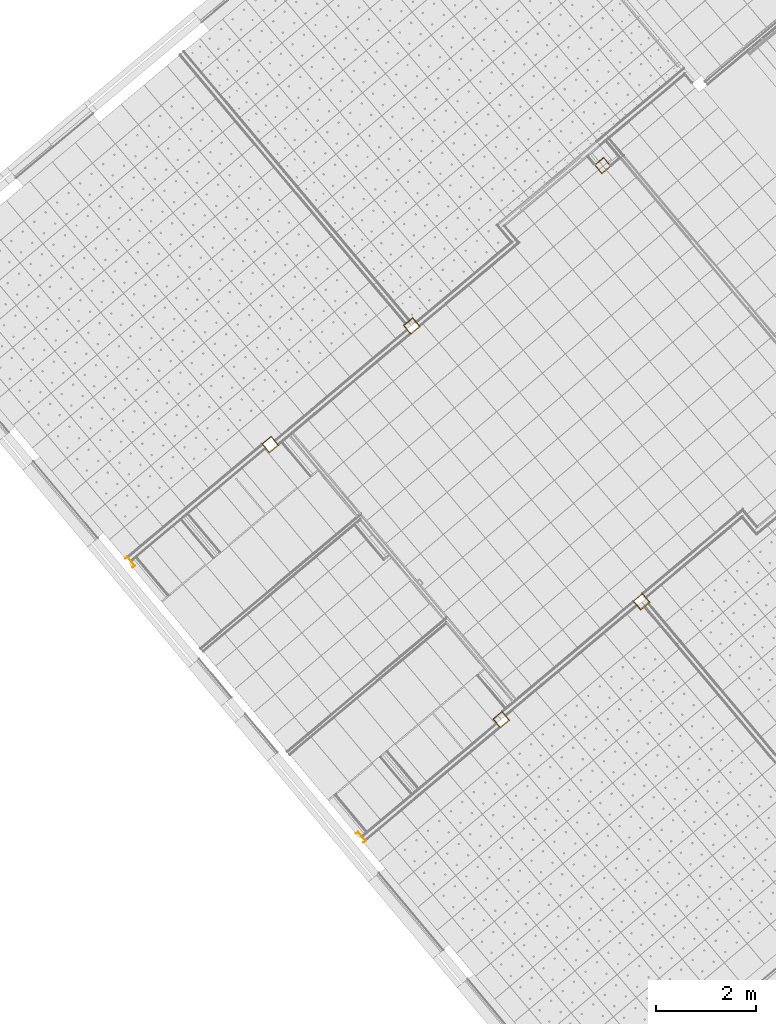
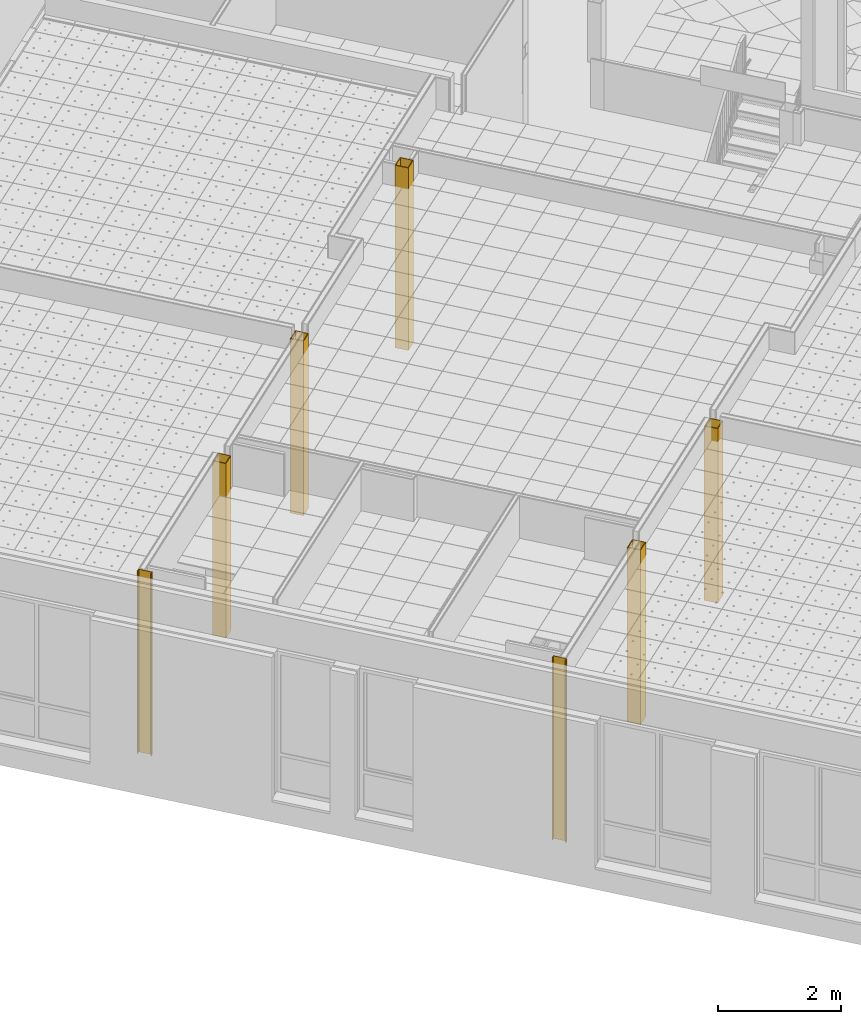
# One storey, part 116 of 338: 7 coverings.
"""IFC2X3 building model written with IfcOpenShell, lengths in millimetres."""

from ifc_helpers import new_model, entity, si_unit, converted_unit, derived_unit, money_unit, direction, frame, origin_with_axes, place, context, subcontext, project, spatial, faceted_brep, material, type_object, element, save


model = new_model("IFC2X3")

# Units and contexts
model_context = context("Model", 3, precision=0.01, world=origin_with_axes(), true_north=direction((0.0, 1.0)))
plan_context = context("Plan", 3, precision=0.01, world=origin_with_axes(), true_north=direction((0.0, 1.0)))
body_context = subcontext(model_context, "Body", "Model", "MODEL_VIEW")
ifc_project = project(units=[si_unit("LENGTHUNIT", "METRE", prefix="MILLI"), si_unit("AREAUNIT", "SQUARE_METRE"), si_unit("VOLUMEUNIT", "CUBIC_METRE"), converted_unit("PLANEANGLEUNIT", "DEGREE", entity("IfcPlaneAngleMeasure", 0.0174532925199), si_unit("PLANEANGLEUNIT", "RADIAN"), dimensions=[0, 0, 0, 0, 0, 0, 0]), money_unit("EUR"), converted_unit("TIMEUNIT", "Year", entity("IfcTimeMeasure", 31556926.0), si_unit("TIMEUNIT", "SECOND"), dimensions=[0, 0, 1, 0, 0, 0, 0]), si_unit("MASSUNIT", "GRAM", prefix="KILO"), si_unit("THERMODYNAMICTEMPERATUREUNIT", "DEGREE_CELSIUS"), si_unit("LUMINOUSINTENSITYUNIT", "LUMEN"), si_unit("ENERGYUNIT", "JOULE", prefix="MEGA"), derived_unit("THERMALCONDUCTANCEUNIT", [(si_unit("POWERUNIT", "WATT"), 1), (si_unit("LENGTHUNIT", "METRE"), -1), (si_unit("THERMODYNAMICTEMPERATUREUNIT", "KELVIN"), -1)]), derived_unit("SPECIFICHEATCAPACITYUNIT", [(si_unit("ENERGYUNIT", "JOULE"), 1), (si_unit("MASSUNIT", "GRAM", prefix="KILO"), -1), (si_unit("THERMODYNAMICTEMPERATUREUNIT", "KELVIN"), -1)]), derived_unit("MASSDENSITYUNIT", [(si_unit("MASSUNIT", "GRAM", prefix="KILO"), 1), (si_unit("VOLUMEUNIT", "CUBIC_METRE"), -1)])], contexts=[model_context, plan_context])

# Site, building, storey
site_placement = place(None, origin_with_axes())
site = spatial("IfcSite", under=ifc_project, at=site_placement, Name="Fortuinstraat Woensdrecht", CompositionType="ELEMENT")
building_placement = place(site_placement, origin_with_axes())
building = spatial("IfcBuilding", under=site, at=building_placement, Name="IKC Fortuna", CompositionType="ELEMENT")
storey_placement = place(building_placement, origin_with_axes())
storey = spatial("IfcBuildingStorey", under=building, at=storey_placement, Name="00 begane grond", CompositionType="ELEMENT", Elevation=0.0)

# Coverings
ifc_material = material(Name="Brandwering")
covering_type = type_object("IfcCoveringType", Name="42 Omtimmering kolom 235 x 245", PredefinedType="CLADDING")
covering_1_placement = place(storey_placement, frame((14347.9592707, 2426.34805355, 1450.0), z_axis=(0.0, 0.0, 1.0), x_axis=(0.642787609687, -0.766044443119, 0.0)))
element("IfcCovering", 1, at=covering_1_placement, inside=storey, type_object=covering_type, material=ifc_material, Name="42_Wandafwerking_omtimmering kolom", PredefinedType="CLADDING", context=body_context, shape_type="Brep", body=[
    faceted_brep([(-117.5, 122.5, 3635.0), (-117.5, 122.5, 0.0), (-117.5, -122.5, 0.0), (-117.5, -122.5, 3635.0), (117.5, 122.5, 3635.0), (117.5, 122.5, 0.0), (117.5, -122.5, 0.0), (105.0, -110.0, 0.0), (105.0, 110.0, 0.0), (-105.0, 110.0, 0.0), (-105.0, -110.0, 0.0), (117.5, -122.5, 3635.0), (-105.0, 110.0, 3635.0), (105.0, 110.0, 3635.0), (105.0, -110.0, 3635.0), (-105.0, -110.0, 3635.0)], [[[0, 1, 2, 3]], [[4, 5, 1, 0]], [[2, 1, 5, 6], [7, 8, 9, 10]], [[3, 2, 6, 11]], [[4, 0, 3, 11], [12, 13, 14, 15]], [[11, 6, 5, 4]], [[13, 8, 7, 14]], [[12, 9, 8, 13]], [[15, 10, 9, 12]], [[14, 7, 10, 15]]]),
])
covering_2_placement = place(storey_placement, frame((10517.2428272, -788.246295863, 1450.0), z_axis=(0.0, 0.0, 1.0), x_axis=(0.642787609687, -0.766044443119, 0.0)))
element("IfcCovering", 2, at=covering_2_placement, inside=storey, type_object=covering_type, material=ifc_material, Name="42_Wandafwerking_omtimmering kolom", PredefinedType="CLADDING", context=body_context, shape_type="Brep", body=[
    faceted_brep([(-117.5, 122.5, 3475.0), (-117.5, 122.5, 0.0), (-117.5, -122.5, 0.0), (-117.5, -122.5, 3475.0), (117.5, 122.5, 3475.0), (117.5, 122.5, 0.0), (117.5, -122.5, 0.0), (105.0, -110.0, 0.0), (105.0, 110.0, 0.0), (-105.0, 110.0, 0.0), (-105.0, -110.0, 0.0), (117.5, -122.5, 3475.0), (-105.0, 110.0, 3475.0), (105.0, 110.0, 3475.0), (105.0, -110.0, 3475.0), (-105.0, -110.0, 3475.0)], [[[0, 1, 2, 3]], [[4, 5, 1, 0]], [[2, 1, 5, 6], [7, 8, 9, 10]], [[3, 2, 6, 11]], [[4, 0, 3, 11], [12, 13, 14, 15]], [[11, 6, 5, 4]], [[13, 8, 7, 14]], [[12, 9, 8, 13]], [[15, 10, 9, 12]], [[14, 7, 10, 15]]]),
])
for number, where, z_axis, x_axis, name in (
    (3, (7682.1069863, -3167.2027006, 1450.0), (0.0, 0.0, 1.0), (0.642787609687, -0.766044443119, 0.0), "42_Wandafwerking_omtimmering kolom"),
    (4, (12310.8298535, -8681.93897229, 1450.0), (0.0, 0.0, 1.0), (0.642787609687, -0.766044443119, 0.0), "42_Wandafwerking_omtimmering kolom"),
    (5, (15127.2351728, -6319.08709051, 1450.0), (0.0, 0.0, 1.0), (0.642787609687, -0.766044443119, 0.0), "42_Wandafwerking_omtimmering kolom"),
):
    element("IfcCovering", number, at=place(storey_placement, frame(where, z_axis=z_axis, x_axis=x_axis)), inside=storey, type_object=covering_type, material=ifc_material, Name=name, PredefinedType="CLADDING", context=body_context, shape_type="Brep", body=[
        faceted_brep([(-117.5, 122.5, 3474.0), (-117.5, 122.5, 0.0), (-117.5, -122.5, 0.0), (-117.5, -122.5, 3474.0), (117.5, 122.5, 3474.0), (117.5, 122.5, 0.0), (117.5, -122.5, 0.0), (105.0, -110.0, 0.0), (105.0, 110.0, 0.0), (-105.0, 110.0, 0.0), (-105.0, -110.0, 0.0), (117.5, -122.5, 3474.0), (-105.0, 110.0, 3474.0), (105.0, 110.0, 3474.0), (105.0, -110.0, 3474.0), (-105.0, -110.0, 3474.0)], [[[0, 1, 2, 3]], [[4, 5, 1, 0]], [[2, 1, 5, 6], [7, 8, 9, 10]], [[3, 2, 6, 11]], [[4, 0, 3, 11], [12, 13, 14, 15]], [[11, 6, 5, 4]], [[13, 8, 7, 14]], [[12, 9, 8, 13]], [[15, 10, 9, 12]], [[14, 7, 10, 15]]]),
    ])
covering_3_placement = place(storey_placement, frame((9433.40168988, -11096.3878831, 1450.0), z_axis=(0.0, 0.0, 1.0), x_axis=(0.642787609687, -0.766044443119, 0.0)))
element("IfcCovering", 6, at=covering_3_placement, inside=storey, type_object=covering_type, material=ifc_material, Name="42_Wandafwerking_omtimmering kolom", PredefinedType="CLADDING", context=body_context, shape_type="Brep", body=[
    faceted_brep([(110.0, 105.0, 3635.0), (110.0, 56.2156992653, 3635.0), (122.5, 56.2156992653, 3635.0), (122.5, 117.5, 3635.0), (-122.5, 117.5, 3635.0), (-122.5, 56.2156992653, 3635.0), (-110.0, 56.2156992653, 3635.0), (-110.0, 105.0, 3635.0), (110.0, 105.0, 0.0), (110.0, 56.2156992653, 0.0), (122.5, 56.2156992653, 0.0), (122.5, 117.5, 0.0), (-122.5, 117.5, 0.0), (-122.5, 56.2156992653, 0.0), (-110.0, 56.2156992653, 0.0), (-110.0, 105.0, 0.0)], [[[0, 1, 2, 3, 4, 5, 6, 7]], [[8, 9, 1, 0]], [[9, 10, 2, 1]], [[3, 2, 10, 11]], [[4, 3, 11, 12]], [[12, 13, 5, 4]], [[13, 14, 6, 5]], [[7, 6, 14, 15]], [[0, 7, 15, 8]], [[11, 10, 9, 8, 15, 14, 13, 12]]]),
])
covering_4_placement = place(storey_placement, frame((4805.44738363, -5581.00671222, 1450.0), z_axis=(0.0, 0.0, 1.0), x_axis=(0.642787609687, -0.766044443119, 0.0)))
element("IfcCovering", 7, at=covering_4_placement, inside=storey, type_object=covering_type, material=ifc_material, Name="42_Wandafwerking_omtimmering kolom", PredefinedType="CLADDING", context=body_context, shape_type="Brep", body=[
    faceted_brep([(110.0, 105.0, 3635.0), (110.0, 56.2156992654, 3635.0), (122.5, 56.2156992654, 3635.0), (122.5, 117.5, 3635.0), (-122.5, 117.5, 3635.0), (-122.5, 56.2156992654, 3635.0), (-110.0, 56.2156992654, 3635.0), (-110.0, 105.0, 3635.0), (110.0, 105.0, 0.0), (110.0, 56.2156992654, 0.0), (122.5, 56.2156992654, 0.0), (122.5, 117.5, 0.0), (-122.5, 117.5, 0.0), (-122.5, 56.2156992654, 0.0), (-110.0, 56.2156992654, 0.0), (-110.0, 105.0, 0.0)], [[[0, 1, 2, 3, 4, 5, 6, 7]], [[8, 9, 1, 0]], [[9, 10, 2, 1]], [[3, 2, 10, 11]], [[4, 3, 11, 12]], [[12, 13, 5, 4]], [[13, 14, 6, 5]], [[7, 6, 14, 15]], [[0, 7, 15, 8]], [[11, 10, 9, 8, 15, 14, 13, 12]]]),
])

save(model, "model.ifc")
